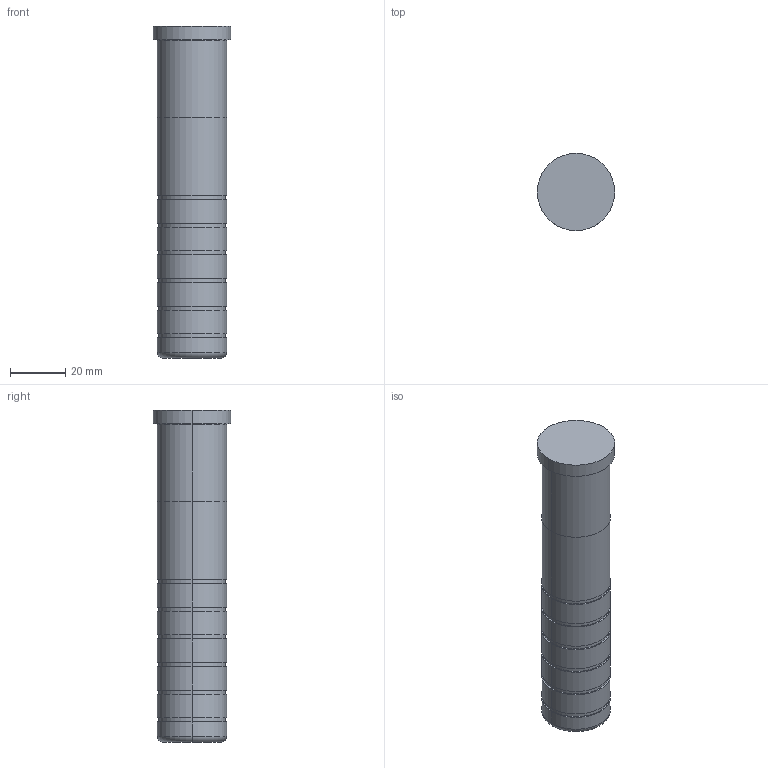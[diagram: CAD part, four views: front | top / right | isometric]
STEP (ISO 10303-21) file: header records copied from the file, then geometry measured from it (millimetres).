
FILE_DESCRIPTION(/* description */ (''),/* implementation_level */ '2;1');
FILE_NAME(/* name */ '3d_sgoh25-120_05205_r00.stp',/* time_stamp */ '2011-01-10T14:11:08+09:00',/* author */ ('MISUMI'),/* organization */ (''),/* preprocessor_version */ 'ST-DEVELOPER v11',/* originating_system */ 'UGS - NX 5.0',/* authorisation */ '');
FILE_SCHEMA (('CONFIG_CONTROL_DESIGN'));
Length unit declared in the file: millimetre
Products named in the file (1): 3d_sgoh25-120_05205_r00
Bounding box: 28 x 28 x 120 mm (x, y, z)
Volume: 59118.9 mm3; surface area: 11059.3 mm2
Topology: 1 solids, 1 shells, 49 faces, 96 edges, 62 vertices
Faces by surface type: cylinder 30, plane 15, torus 4
Entity records: 1374 total; most frequent: DIRECTION 262, CARTESIAN_POINT 208, ORIENTED_EDGE 192, AXIS2_PLACEMENT_3D 116, EDGE_CURVE 96, CIRCLE 66, EDGE_LOOP 62, VERTEX_POINT 62
